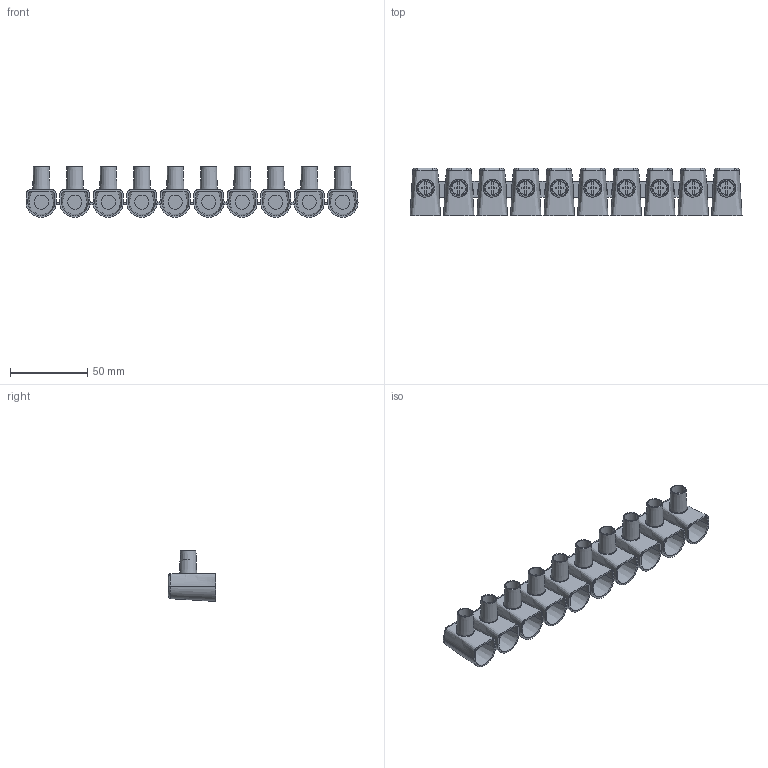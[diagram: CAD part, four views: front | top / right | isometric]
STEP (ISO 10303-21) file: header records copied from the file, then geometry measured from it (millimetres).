
FILE_DESCRIPTION(/* description */ ('Unknown'),/* implementation_level */ '2;1');
FILE_NAME(/* name */ 'MT 516',/* time_stamp */ '2021-10-08T09:26:00+02:00',/* author */ ('Unknown'),/* organization */ ('Unknown'),/* preprocessor_version */ 'ST-DEVELOPER v16.7',/* originating_system */ 'Solid Edge',/* authorisation */ 'Unknown');
FILE_SCHEMA (('AUTOMOTIVE_DESIGN {1 0 10303 214 3 1 1}'));
Length unit declared in the file: millimetre
Products named in the file (1): MT 516a
Bounding box: 215.1 x 31 x 33 mm (x, y, z)
Volume: 51870.6 mm3; surface area: 41851 mm2
Topology: 1 solids, 1 shells, 428 faces, 1250 edges, 826 vertices
Faces by surface type: plane 288, bspline 110, cylinder 20, cone 10
Full cylindrical faces by diameter (mm): 8.8 x10, 9.3 x10
Entity records: 59842 total; most frequent: CARTESIAN_POINT 50119, ORIENTED_EDGE 2340, DIRECTION 1372, EDGE_CURVE 1170, VERTEX_POINT 806, LINE 554, VECTOR 554, B_SPLINE_CURVE_WITH_KNOTS 526
